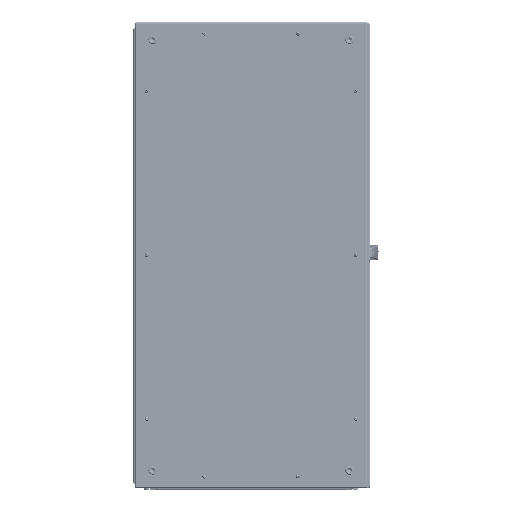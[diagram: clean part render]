
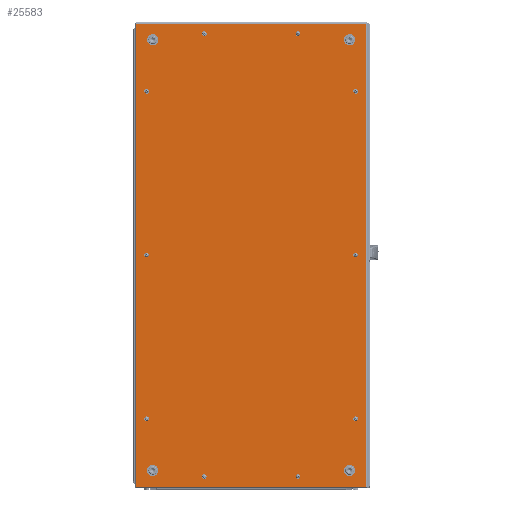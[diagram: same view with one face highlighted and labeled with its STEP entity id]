
A CAD part, top view. The second image highlights one B-rep face of the part: STEP entity #25583.
In plain terms, the highlighted planar face has unit normal (0, 0, 1).
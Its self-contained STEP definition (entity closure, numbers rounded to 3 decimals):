
#25583=ADVANCED_FACE('',(#156054,#156056,#156058,#156060,#156062,#156064,#156066,
#156068,#156070,#156072,#156074,#156076,#156078,#156080,#156082),#156084,.T.);
#156054=FACE_BOUND('',#156055,.T.);
#156055=EDGE_LOOP('',(#381300,#381301,#381302,#381303));
#156056=FACE_BOUND('',#156057,.T.);
#156057=EDGE_LOOP('',(#381304));
#156058=FACE_BOUND('',#156059,.T.);
#156059=EDGE_LOOP('',(#381305));
#156060=FACE_BOUND('',#156061,.T.);
#156061=EDGE_LOOP('',(#381306));
#156062=FACE_BOUND('',#156063,.T.);
#156063=EDGE_LOOP('',(#381307));
#156064=FACE_BOUND('',#156065,.T.);
#156065=EDGE_LOOP('',(#381308));
#156066=FACE_BOUND('',#156067,.T.);
#156067=EDGE_LOOP('',(#381309));
#156068=FACE_BOUND('',#156069,.T.);
#156069=EDGE_LOOP('',(#381310));
#156070=FACE_BOUND('',#156071,.T.);
#156071=EDGE_LOOP('',(#381311));
#156072=FACE_BOUND('',#156073,.T.);
#156073=EDGE_LOOP('',(#381312));
#156074=FACE_BOUND('',#156075,.T.);
#156075=EDGE_LOOP('',(#381313));
#156076=FACE_BOUND('',#156077,.T.);
#156077=EDGE_LOOP('',(#381314));
#156078=FACE_BOUND('',#156079,.T.);
#156079=EDGE_LOOP('',(#381315));
#156080=FACE_BOUND('',#156081,.T.);
#156081=EDGE_LOOP('',(#381316));
#156082=FACE_BOUND('',#156083,.T.);
#156083=EDGE_LOOP('',(#381317));
#156084=PLANE('',#156085);
#156085=AXIS2_PLACEMENT_3D('',#156086,#156087,#156088);
#156086=CARTESIAN_POINT('',(0.,0.,1.5));
#156087=DIRECTION('',(0.,0.,1.));
#156088=DIRECTION('',(0.,1.,0.));
#381300=ORIENTED_EDGE('',*,*,#429981,.T.);
#381301=ORIENTED_EDGE('',*,*,#429982,.T.);
#381302=ORIENTED_EDGE('',*,*,#429983,.T.);
#381303=ORIENTED_EDGE('',*,*,#429984,.T.);
#381304=ORIENTED_EDGE('',*,*,#429960,.T.);
#381305=ORIENTED_EDGE('',*,*,#429959,.T.);
#381306=ORIENTED_EDGE('',*,*,#429958,.T.);
#381307=ORIENTED_EDGE('',*,*,#429957,.T.);
#381308=ORIENTED_EDGE('',*,*,#429956,.T.);
#381309=ORIENTED_EDGE('',*,*,#429955,.T.);
#381310=ORIENTED_EDGE('',*,*,#429951,.T.);
#381311=ORIENTED_EDGE('',*,*,#429952,.T.);
#381312=ORIENTED_EDGE('',*,*,#429953,.T.);
#381313=ORIENTED_EDGE('',*,*,#429954,.T.);
#381314=ORIENTED_EDGE('',*,*,#429949,.T.);
#381315=ORIENTED_EDGE('',*,*,#429948,.T.);
#381316=ORIENTED_EDGE('',*,*,#429947,.T.);
#381317=ORIENTED_EDGE('',*,*,#429946,.T.);
#429946=EDGE_CURVE('',#496144,#496144,#496145,.F.);
#429947=EDGE_CURVE('',#496146,#496146,#496147,.F.);
#429948=EDGE_CURVE('',#496148,#496148,#496149,.F.);
#429949=EDGE_CURVE('',#496150,#496150,#496151,.F.);
#429951=EDGE_CURVE('',#496154,#496154,#496155,.F.);
#429952=EDGE_CURVE('',#496156,#496156,#496157,.F.);
#429953=EDGE_CURVE('',#496158,#496158,#496159,.F.);
#429954=EDGE_CURVE('',#496160,#496160,#496161,.F.);
#429955=EDGE_CURVE('',#496162,#496162,#496163,.F.);
#429956=EDGE_CURVE('',#496164,#496164,#496165,.F.);
#429957=EDGE_CURVE('',#496166,#496166,#496167,.F.);
#429958=EDGE_CURVE('',#496168,#496168,#496169,.F.);
#429959=EDGE_CURVE('',#496170,#496170,#496171,.F.);
#429960=EDGE_CURVE('',#496172,#496172,#496173,.F.);
#429981=EDGE_CURVE('',#496210,#496211,#496212,.T.);
#429982=EDGE_CURVE('',#496211,#496213,#496214,.T.);
#429983=EDGE_CURVE('',#496213,#496215,#496216,.T.);
#429984=EDGE_CURVE('',#496215,#496210,#496217,.T.);
#496144=VERTEX_POINT('',#645468);
#496145=CIRCLE('',#645469,3.75);
#496146=VERTEX_POINT('',#645473);
#496147=CIRCLE('',#645474,3.75);
#496148=VERTEX_POINT('',#645478);
#496149=CIRCLE('',#645479,3.75);
#496150=VERTEX_POINT('',#645483);
#496151=CIRCLE('',#645484,3.75);
#496154=VERTEX_POINT('',#645493);
#496155=CIRCLE('',#645494,7.);
#496156=VERTEX_POINT('',#645498);
#496157=CIRCLE('',#645499,7.);
#496158=VERTEX_POINT('',#645503);
#496159=CIRCLE('',#645504,7.);
#496160=VERTEX_POINT('',#645508);
#496161=CIRCLE('',#645509,7.);
#496162=VERTEX_POINT('',#645513);
#496163=CIRCLE('',#645514,3.75);
#496164=VERTEX_POINT('',#645518);
#496165=CIRCLE('',#645519,3.75);
#496166=VERTEX_POINT('',#645523);
#496167=CIRCLE('',#645524,3.75);
#496168=VERTEX_POINT('',#645528);
#496169=CIRCLE('',#645529,3.75);
#496170=VERTEX_POINT('',#645533);
#496171=CIRCLE('',#645534,3.75);
#496172=VERTEX_POINT('',#645538);
#496173=CIRCLE('',#645539,3.75);
#496210=VERTEX_POINT('',#645755);
#496211=VERTEX_POINT('',#645756);
#496212=LINE('',#645757,#645758);
#496213=VERTEX_POINT('',#645760);
#496214=LINE('',#645761,#645762);
#496215=VERTEX_POINT('',#645764);
#496216=LINE('',#645765,#645766);
#496217=LINE('',#645768,#645769);
#645468=CARTESIAN_POINT('',(-223.5,353.75,1.5));
#645469=AXIS2_PLACEMENT_3D('',#645470,#645471,#645472);
#645470=CARTESIAN_POINT('',(-223.5,350.,1.5));
#645471=DIRECTION('',(0.,0.,1.));
#645472=DIRECTION('',(0.,1.,0.));
#645473=CARTESIAN_POINT('',(223.5,-346.25,1.5));
#645474=AXIS2_PLACEMENT_3D('',#645475,#645476,#645477);
#645475=CARTESIAN_POINT('',(223.5,-350.,1.5));
#645476=DIRECTION('',(0.,0.,1.));
#645477=DIRECTION('',(0.,1.,0.));
#645478=CARTESIAN_POINT('',(223.5,353.75,1.5));
#645479=AXIS2_PLACEMENT_3D('',#645480,#645481,#645482);
#645480=CARTESIAN_POINT('',(223.5,350.,1.5));
#645481=DIRECTION('',(0.,0.,1.));
#645482=DIRECTION('',(0.,1.,0.));
#645483=CARTESIAN_POINT('',(-223.5,-346.25,1.5));
#645484=AXIS2_PLACEMENT_3D('',#645485,#645486,#645487);
#645485=CARTESIAN_POINT('',(-223.5,-350.,1.5));
#645486=DIRECTION('',(0.,0.,1.));
#645487=DIRECTION('',(0.,1.,0.));
#645493=CARTESIAN_POINT('',(210.5,467.5,1.5));
#645494=AXIS2_PLACEMENT_3D('',#645495,#645496,#645497);
#645495=CARTESIAN_POINT('',(210.5,460.5,1.5));
#645496=DIRECTION('',(0.,0.,1.));
#645497=DIRECTION('',(0.,1.,0.));
#645498=CARTESIAN_POINT('',(-210.5,-453.5,1.5));
#645499=AXIS2_PLACEMENT_3D('',#645500,#645501,#645502);
#645500=CARTESIAN_POINT('',(-210.5,-460.5,1.5));
#645501=DIRECTION('',(0.,0.,1.));
#645502=DIRECTION('',(0.,1.,0.));
#645503=CARTESIAN_POINT('',(-210.5,467.5,1.5));
#645504=AXIS2_PLACEMENT_3D('',#645505,#645506,#645507);
#645505=CARTESIAN_POINT('',(-210.5,460.5,1.5));
#645506=DIRECTION('',(0.,0.,1.));
#645507=DIRECTION('',(0.,1.,0.));
#645508=CARTESIAN_POINT('',(210.5,-453.5,1.5));
#645509=AXIS2_PLACEMENT_3D('',#645510,#645511,#645512);
#645510=CARTESIAN_POINT('',(210.5,-460.5,1.5));
#645511=DIRECTION('',(0.,0.,1.));
#645512=DIRECTION('',(0.,1.,0.));
#645513=CARTESIAN_POINT('',(-223.5,3.75,1.5));
#645514=AXIS2_PLACEMENT_3D('',#645515,#645516,#645517);
#645515=CARTESIAN_POINT('',(-223.5,0.,1.5));
#645516=DIRECTION('',(0.,0.,1.));
#645517=DIRECTION('',(0.,1.,0.));
#645518=CARTESIAN_POINT('',(223.5,3.75,1.5));
#645519=AXIS2_PLACEMENT_3D('',#645520,#645521,#645522);
#645520=CARTESIAN_POINT('',(223.5,0.,1.5));
#645521=DIRECTION('',(0.,0.,1.));
#645522=DIRECTION('',(0.,1.,0.));
#645523=CARTESIAN_POINT('',(-100.,-469.75,1.5));
#645524=AXIS2_PLACEMENT_3D('',#645525,#645526,#645527);
#645525=CARTESIAN_POINT('',(-100.,-473.5,1.5));
#645526=DIRECTION('',(0.,0.,1.));
#645527=DIRECTION('',(0.,1.,0.));
#645528=CARTESIAN_POINT('',(100.,477.25,1.5));
#645529=AXIS2_PLACEMENT_3D('',#645530,#645531,#645532);
#645530=CARTESIAN_POINT('',(100.,473.5,1.5));
#645531=DIRECTION('',(0.,0.,1.));
#645532=DIRECTION('',(0.,1.,0.));
#645533=CARTESIAN_POINT('',(-100.,477.25,1.5));
#645534=AXIS2_PLACEMENT_3D('',#645535,#645536,#645537);
#645535=CARTESIAN_POINT('',(-100.,473.5,1.5));
#645536=DIRECTION('',(0.,0.,1.));
#645537=DIRECTION('',(0.,1.,0.));
#645538=CARTESIAN_POINT('',(100.,-469.75,1.5));
#645539=AXIS2_PLACEMENT_3D('',#645540,#645541,#645542);
#645540=CARTESIAN_POINT('',(100.,-473.5,1.5));
#645541=DIRECTION('',(0.,0.,1.));
#645542=DIRECTION('',(0.,1.,0.));
#645755=CARTESIAN_POINT('',(245.2,495.2,1.5));
#645756=CARTESIAN_POINT('',(-245.2,495.2,1.5));
#645757=CARTESIAN_POINT('',(245.2,495.2,1.5));
#645758=VECTOR('',#645759,1.);
#645759=DIRECTION('',(-1.,0.,0.));
#645760=CARTESIAN_POINT('',(-245.2,-495.2,1.5));
#645761=CARTESIAN_POINT('',(-245.2,495.2,1.5));
#645762=VECTOR('',#645763,1.);
#645763=DIRECTION('',(0.,-1.,0.));
#645764=CARTESIAN_POINT('',(245.2,-495.2,1.5));
#645765=CARTESIAN_POINT('',(-245.2,-495.2,1.5));
#645766=VECTOR('',#645767,1.);
#645767=DIRECTION('',(1.,0.,0.));
#645768=CARTESIAN_POINT('',(245.2,-495.2,1.5));
#645769=VECTOR('',#645770,1.);
#645770=DIRECTION('',(0.,1.,0.));
